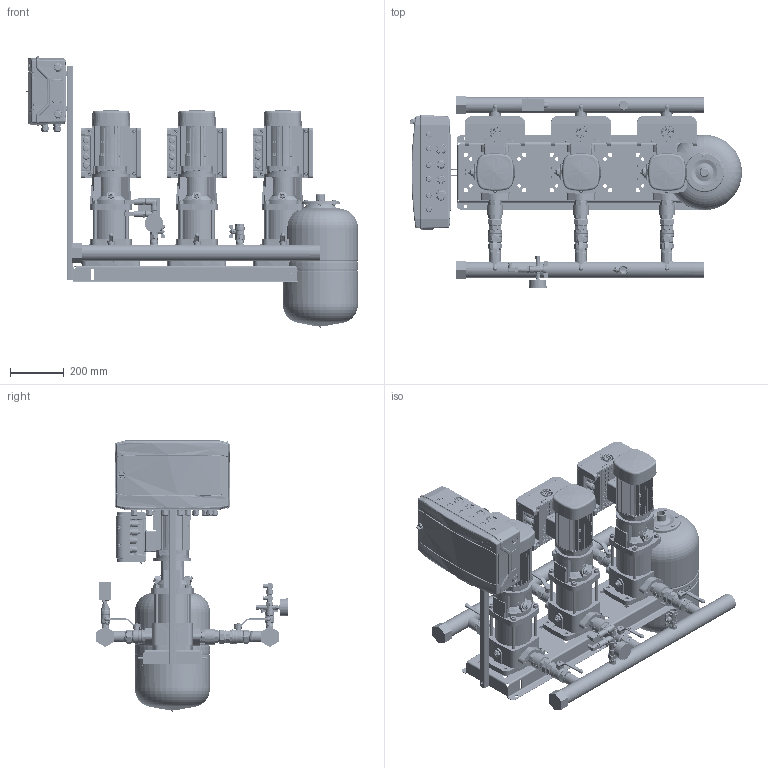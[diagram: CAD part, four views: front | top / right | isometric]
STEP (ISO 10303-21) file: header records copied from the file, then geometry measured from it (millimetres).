
FILE_DESCRIPTION(('CATIA V5 STEP Exchange','CAx-IF Rec.Pracs.--- Model Styling and Organization---1.4--- 2014-01-23','CAx-IF Rec.Pracs.---3D Tessellated Data Validation Properties---0.5---2014-09-14'),'2;1');
FILE_NAME('C:\Users\78432\YandexDisk\Drawings and 3D\3D Hydro Booster\Hydro-ME 3D\Hydro Models\Hydro ME 3 CRV3-xx\Hydro ME 3 CRVE3-8.stp','2023-09-21T08:51:42+00:00',('none'),('none'),'CATIA Version 5-6 Release 2019 SP6','CATIA V5 STEP AP242 v1','none');
FILE_SCHEMA(('AP242_MANAGED_MODEL_BASED_3D_ENGINEERING_MIM_LF {1 0 10303 442 1 1 4}'));
Products named in the file (46): Hydro ME 3 CRVE3-8; 92051012; CRV3-8 Set; CRV 3-8_A_Oval_0.75kW; Base; Flange.1; Flange.2; Sleeve; Pumphead; Staybolt_1; Staybolt_2; Staybolt_3; Staybolt_4; Plug; AirVent; Motor; 92807543_9022-04; Hydraulica NY DN32 1,25 PN16; DN32_FM_LV_47.303.32; 92814060_9013-04; SAJ PDH30 0,75-2,2kW; 97941451; 405801; 91040265; 91040272; 97941488; 00ID7526; Holder and CP 18mod; 92878909; Control ME (18mod); 2 sensors + manometer cpl.; manometr 16 bar; RPD-I-G1_2; 9021-01; 2070 1/2-1/2; _2020 1/2-1/2; 98594078; Tank 24L cpl.; DN20_FF_BF_47.300.20; WAV-24(D140 1'')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
Assembly tree (55 placements, depth 4):
  Hydro ME 3 CRVE3-8
    92051012
    CRV3-8 Set  x3
      CRV 3-8_A_Oval_0.75kW
        Base
        Flange.1
        Flange.2
        Sleeve
        Pumphead
        Staybolt_1
        Staybolt_2
        Staybolt_3
        Staybolt_4
        Plug
        AirVent
        Motor
      92807543_9022-04
      Hydraulica NY DN32 1,25 PN16
      DN32_FM_LV_47.303.32
      92814060_9013-04
      SAJ PDH30 0,75-2,2kW
    97941451  x2
      405801
      91040265
      91040272
      97941488
    00ID7526  x2
    Holder and CP 18mod
      92878909
      Control ME (18mod)
    2 sensors + manometer cpl.
      manometr 16 bar
      RPD-I-G1_2  x2
      9021-01
      2070 1/2-1/2
      _2020 1/2-1/2
      98594078
    Tank 24L cpl.
      DN20_FF_BF_47.300.20
      9021-03
    Relay cpl.
      Relay RD-2R
      DN20_FF_BF_47.300.20
      2530 3/4-1/2
      _2530 1/2-1/4
    91078139
  WAV-24(D140 1'')
Bounding box: 1236.82 x 712 x 1009.9 mm (x, y, z)
Volume: 59686683.4 mm3; surface area: 6988673.1 mm2
Topology: 218 solids, 257 shells, 26068 faces, 76258 edges, 51090 vertices
Faces by surface type: plane 11496, cylinder 6431, bspline 5781, cone 1763, torus 432, sphere 165
Entity records: 562783 total; most frequent: CARTESIAN_POINT 276876, ORIENTED_EDGE 73077, EDGE_CURVE 37020, DIRECTION 34511, VERTEX_POINT 24670, VECTOR 16132, LINE 16132, EDGE_LOOP 14396
